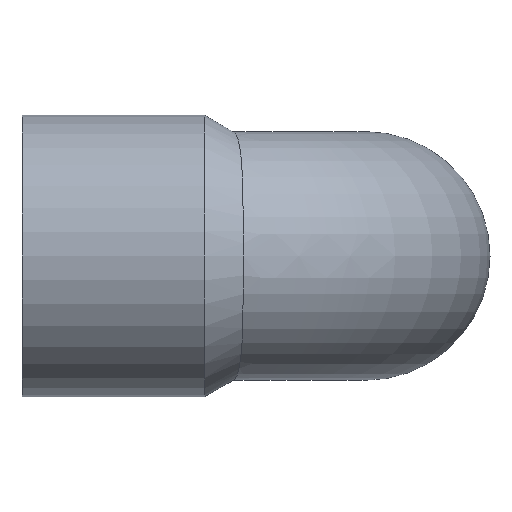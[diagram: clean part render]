
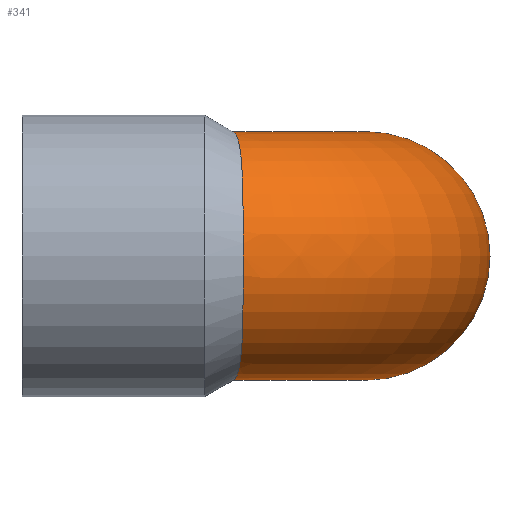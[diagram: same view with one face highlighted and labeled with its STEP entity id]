
A CAD part, front view. The second image highlights one B-rep face of the part: STEP entity #341.
In plain terms, the highlighted toroidal (fillet/blend) face has major radius 11 mm and minor radius 6 mm.
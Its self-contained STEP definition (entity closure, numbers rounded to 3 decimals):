
#112=CARTESIAN_POINT('',(17.0,0.,0.));
#113=VERTEX_POINT('',#112);
#114=CARTESIAN_POINT('',(11.0,0.,0.0));
#115=DIRECTION('',(0.0,-1.0,0.0));
#116=DIRECTION('',(1.0,0.0,0.0));
#117=AXIS2_PLACEMENT_3D('',#114,#115,#116);
#118=CIRCLE('',#117,6.);
#119=EDGE_CURVE('',#113,#113,#118,.T.);
#237=CARTESIAN_POINT('',(5.079,-16.224,0.0));
#238=VERTEX_POINT('',#237);
#239=CARTESIAN_POINT('',(5.079,-16.224,0.0));
#240=CARTESIAN_POINT('',(5.079,-16.224,-0.489));
#241=CARTESIAN_POINT('',(5.079,-16.161,-0.975));
#242=CARTESIAN_POINT('',(5.077,-15.92,-1.9));
#243=CARTESIAN_POINT('',(5.075,-15.749,-2.336));
#244=CARTESIAN_POINT('',(5.059,-15.149,-3.452));
#245=CARTESIAN_POINT('',(5.038,-14.633,-4.073));
#246=CARTESIAN_POINT('',(4.952,-13.376,-5.1));
#247=CARTESIAN_POINT('',(4.887,-12.642,-5.489));
#248=CARTESIAN_POINT('',(4.71,-11.052,-5.97));
#249=CARTESIAN_POINT('',(4.599,-10.209,-6.051));
#250=CARTESIAN_POINT('',(4.344,-8.531,-5.885));
#251=CARTESIAN_POINT('',(4.202,-7.709,-5.633));
#252=CARTESIAN_POINT('',(3.919,-6.251,-4.845));
#253=CARTESIAN_POINT('',(3.78,-5.617,-4.326));
#254=CARTESIAN_POINT('',(3.559,-4.694,-3.205));
#255=CARTESIAN_POINT('',(3.473,-4.365,-2.647));
#256=CARTESIAN_POINT('',(3.37,-3.981,-1.648));
#257=CARTESIAN_POINT('',(3.339,-3.872,-1.235));
#258=CARTESIAN_POINT('',(3.313,-3.781,-0.605));
#259=CARTESIAN_POINT('',(3.308,-3.762,-0.397));
#260=CARTESIAN_POINT('',(3.304,-3.749,-0.009));
#261=CARTESIAN_POINT('',(3.305,-3.752,0.172));
#262=CARTESIAN_POINT('',(3.312,-3.778,0.589));
#263=CARTESIAN_POINT('',(3.321,-3.808,0.825));
#264=CARTESIAN_POINT('',(3.371,-3.987,1.767));
#265=CARTESIAN_POINT('',(3.446,-4.255,2.44));
#266=CARTESIAN_POINT('',(3.652,-5.07,3.749));
#267=CARTESIAN_POINT('',(3.788,-5.645,4.353));
#268=CARTESIAN_POINT('',(4.059,-6.95,5.276));
#269=CARTESIAN_POINT('',(4.193,-7.661,5.605));
#270=CARTESIAN_POINT('',(4.442,-9.15,5.988));
#271=CARTESIAN_POINT('',(4.557,-9.916,6.045));
#272=CARTESIAN_POINT('',(4.755,-11.428,5.886));
#273=CARTESIAN_POINT('',(4.837,-12.162,5.674));
#274=CARTESIAN_POINT('',(4.963,-13.513,5.001));
#275=CARTESIAN_POINT('',(5.006,-14.121,4.549));
#276=CARTESIAN_POINT('',(5.059,-15.132,3.46));
#277=CARTESIAN_POINT('',(5.07,-15.531,2.837));
#278=CARTESIAN_POINT('',(5.079,-16.081,1.47));
#279=CARTESIAN_POINT('',(5.079,-16.224,0.739));
#280=CARTESIAN_POINT('',(5.079,-16.224,0.0));
#281=B_SPLINE_CURVE_WITH_KNOTS('',3,(#239,#240,#241,#242,#243,#244,#245,#246,#247,#248,#249,#250,#251,#252,#253,#254,#255,#256,#257,#258,#259,#260,#261,#262,#263,#264,#265,#266,#267,#268,#269,#270,#271,#272,#273,#274,#275,#276,#277,#278,#279,#280),.UNSPECIFIED.,.T.,.U.,(4,2,2,2,2,2,2,2,2,2,2,2,2,2,2,2,2,2,2,2,4),(-3.871,-3.724,-3.584,-3.344,-3.097,-2.844,-2.586,-2.34,-2.146,-2.017,-1.955,-1.901,-1.829,-1.612,-1.362,-1.127,-0.896,-0.668,-0.442,-0.222,0.0),.UNSPECIFIED.);
#282=EDGE_CURVE('',#238,#238,#281,.T.);
#330=CARTESIAN_POINT('',(0.0,0.0,0.0));
#331=DIRECTION('',(0.0,0.0,1.0));
#332=DIRECTION('',(1.0,0.0,0.0));
#333=AXIS2_PLACEMENT_3D('',#330,#331,#332);
#334=TOROIDAL_SURFACE('',#333,11.0,6.);
#335=ORIENTED_EDGE('',*,*,#119,.T.);
#336=EDGE_LOOP('',(#335));
#337=FACE_OUTER_BOUND('',#336,.T.);
#338=ORIENTED_EDGE('',*,*,#282,.T.);
#339=EDGE_LOOP('',(#338));
#340=FACE_BOUND('',#339,.T.);
#341=ADVANCED_FACE('',(#337,#340),#334,.T.);
